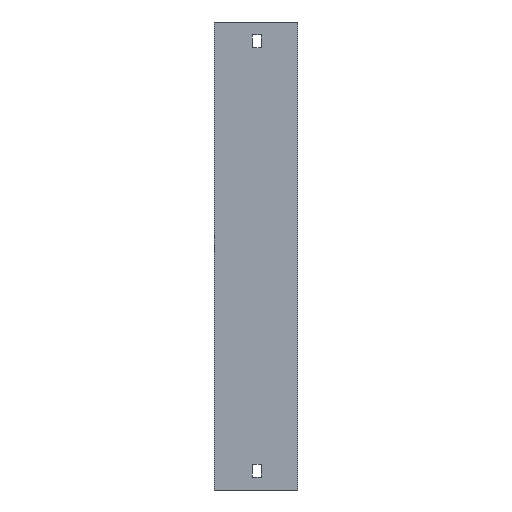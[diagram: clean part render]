
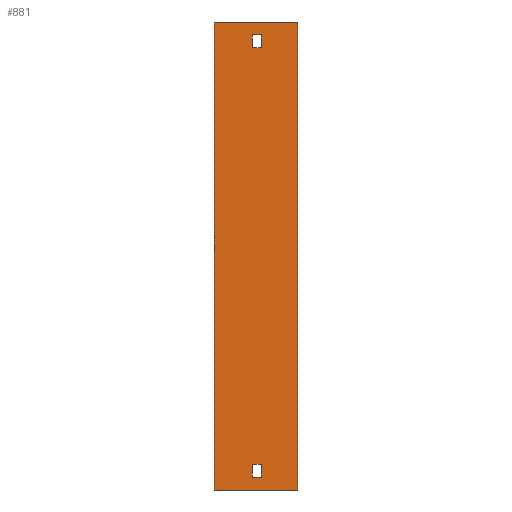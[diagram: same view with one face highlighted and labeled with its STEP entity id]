
A CAD part, left-side view. The second image highlights one B-rep face of the part: STEP entity #881.
In plain terms, the highlighted planar face has unit normal (-1, 0, 0).
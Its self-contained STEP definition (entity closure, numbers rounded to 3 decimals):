
#86 = VERTEX_POINT ( 'NONE', #176 ) ;
#96 = EDGE_CURVE ( 'NONE', #1593, #86, #312, .T. ) ;
#124 = VERTEX_POINT ( 'NONE', #1488 ) ;
#130 = AXIS2_PLACEMENT_3D ( 'NONE', #807, #965, #245 ) ;
#133 = DIRECTION ( 'NONE',  ( 0., 1., 0. ) ) ;
#144 = DIRECTION ( 'NONE',  ( 0., 0., 1. ) ) ;
#145 = DIRECTION ( 'NONE',  ( 0., -1., 0. ) ) ;
#176 = CARTESIAN_POINT ( 'NONE',  ( -165.5, 28.5, -305.5 ) ) ;
#208 = DIRECTION ( 'NONE',  ( 0., 0., -1. ) ) ;
#209 = DIRECTION ( 'NONE',  ( 0., 0., 1. ) ) ;
#218 = CARTESIAN_POINT ( 'NONE',  ( -165.5, 65.5, 50. ) ) ;
#234 = EDGE_CURVE ( 'NONE', #1704, #971, #252, .T. ) ;
#245 = DIRECTION ( 'NONE',  ( 0., 0., -1. ) ) ;
#252 = LINE ( 'NONE', #1446, #1312 ) ;
#280 = CARTESIAN_POINT ( 'NONE',  ( -165.5, 28.5, 40. ) ) ;
#285 = CARTESIAN_POINT ( 'NONE',  ( -165.5, 65.5, -315.5 ) ) ;
#302 = EDGE_CURVE ( 'NONE', #86, #440, #1347, .T. ) ;
#312 = LINE ( 'NONE', #1675, #1509 ) ;
#324 = DIRECTION ( 'NONE',  ( 0., -1., 0. ) ) ;
#337 = VECTOR ( 'NONE', #1057, 1000. ) ;
#359 = ORIENTED_EDGE ( 'NONE', *, *, #639, .T. ) ;
#398 = VECTOR ( 'NONE', #324, 1000. ) ;
#418 = CARTESIAN_POINT ( 'NONE',  ( -165.5, 0., 50. ) ) ;
#427 = EDGE_CURVE ( 'NONE', #1554, #1704, #692, .T. ) ;
#440 = VERTEX_POINT ( 'NONE', #1155 ) ;
#445 = ORIENTED_EDGE ( 'NONE', *, *, #96, .F. ) ;
#457 = CARTESIAN_POINT ( 'NONE',  ( -165.5, 65.5, -315.5 ) ) ;
#484 = VERTEX_POINT ( 'NONE', #418 ) ;
#501 = DIRECTION ( 'NONE',  ( 0., 0., 1. ) ) ;
#511 = DIRECTION ( 'NONE',  ( 0., -1., 0. ) ) ;
#541 = VERTEX_POINT ( 'NONE', #218 ) ;
#550 = DIRECTION ( 'NONE',  ( 0., 0., 1. ) ) ;
#553 = VERTEX_POINT ( 'NONE', #457 ) ;
#605 = CARTESIAN_POINT ( 'NONE',  ( -165.5, 35.5, -295.5 ) ) ;
#622 = EDGE_LOOP ( 'NONE', ( #1219, #837, #764, #359 ) ) ;
#639 = EDGE_CURVE ( 'NONE', #1810, #1554, #897, .T. ) ;
#642 = EDGE_CURVE ( 'NONE', #971, #1810, #1771, .T. ) ;
#659 = VECTOR ( 'NONE', #501, 1000. ) ;
#692 = LINE ( 'NONE', #1911, #1602 ) ;
#744 = CARTESIAN_POINT ( 'NONE',  ( -165.5, 35.5, 30. ) ) ;
#755 = VECTOR ( 'NONE', #133, 1000. ) ;
#762 = VECTOR ( 'NONE', #511, 1000. ) ;
#764 = ORIENTED_EDGE ( 'NONE', *, *, #642, .T. ) ;
#807 = CARTESIAN_POINT ( 'NONE',  ( -165.5, 65.5, -315.5 ) ) ;
#811 = CARTESIAN_POINT ( 'NONE',  ( -165.5, 65.5, 50. ) ) ;
#837 = ORIENTED_EDGE ( 'NONE', *, *, #234, .T. ) ;
#852 = VECTOR ( 'NONE', #144, 1000. ) ;
#881 = ADVANCED_FACE ( 'NONE', ( #1280, #1879, #1400 ), #1115, .F. ) ;
#897 = LINE ( 'NONE', #744, #755 ) ;
#946 = VECTOR ( 'NONE', #1946, 1000. ) ;
#956 = LINE ( 'NONE', #1553, #1608 ) ;
#961 = CARTESIAN_POINT ( 'NONE',  ( -165.5, 28.5, 30. ) ) ;
#963 = EDGE_CURVE ( 'NONE', #1084, #1593, #956, .T. ) ;
#965 = DIRECTION ( 'NONE',  ( 1., 0., 0. ) ) ;
#971 = VERTEX_POINT ( 'NONE', #280 ) ;
#1046 = ORIENTED_EDGE ( 'NONE', *, *, #1834, .F. ) ;
#1057 = DIRECTION ( 'NONE',  ( 0., 1., 0. ) ) ;
#1084 = VERTEX_POINT ( 'NONE', #1720 ) ;
#1099 = ORIENTED_EDGE ( 'NONE', *, *, #1649, .F. ) ;
#1107 = CARTESIAN_POINT ( 'NONE',  ( -165.5, 35.5, -305.5 ) ) ;
#1115 = PLANE ( 'NONE',  #130 ) ;
#1155 = CARTESIAN_POINT ( 'NONE',  ( -165.5, 28.5, -295.5 ) ) ;
#1160 = DIRECTION ( 'NONE',  ( 0., -1., 0. ) ) ;
#1193 = EDGE_CURVE ( 'NONE', #124, #484, #1804, .T. ) ;
#1202 = LINE ( 'NONE', #605, #337 ) ;
#1210 = CARTESIAN_POINT ( 'NONE',  ( -165.5, 28.5, 40. ) ) ;
#1214 = LINE ( 'NONE', #1668, #398 ) ;
#1219 = ORIENTED_EDGE ( 'NONE', *, *, #427, .T. ) ;
#1261 = LINE ( 'NONE', #811, #762 ) ;
#1280 = FACE_OUTER_BOUND ( 'NONE', #1399, .T. ) ;
#1312 = VECTOR ( 'NONE', #1160, 1000. ) ;
#1343 = CARTESIAN_POINT ( 'NONE',  ( -165.5, 35.5, 30. ) ) ;
#1347 = LINE ( 'NONE', #1642, #1833 ) ;
#1348 = CARTESIAN_POINT ( 'NONE',  ( -165.5, 35.5, 40. ) ) ;
#1352 = ORIENTED_EDGE ( 'NONE', *, *, #963, .F. ) ;
#1396 = ORIENTED_EDGE ( 'NONE', *, *, #1865, .F. ) ;
#1399 = EDGE_LOOP ( 'NONE', ( #1770, #1046, #1396, #1924 ) ) ;
#1400 = FACE_BOUND ( 'NONE', #1495, .T. ) ;
#1429 = LINE ( 'NONE', #285, #852 ) ;
#1446 = CARTESIAN_POINT ( 'NONE',  ( -165.5, 35.5, 40. ) ) ;
#1488 = CARTESIAN_POINT ( 'NONE',  ( -165.5, 0., -315.5 ) ) ;
#1495 = EDGE_LOOP ( 'NONE', ( #445, #1352, #1099, #1600 ) ) ;
#1509 = VECTOR ( 'NONE', #145, 1000. ) ;
#1553 = CARTESIAN_POINT ( 'NONE',  ( -165.5, 35.5, -305.5 ) ) ;
#1554 = VERTEX_POINT ( 'NONE', #1343 ) ;
#1593 = VERTEX_POINT ( 'NONE', #1107 ) ;
#1600 = ORIENTED_EDGE ( 'NONE', *, *, #302, .F. ) ;
#1602 = VECTOR ( 'NONE', #550, 1000. ) ;
#1608 = VECTOR ( 'NONE', #208, 1000. ) ;
#1616 = CARTESIAN_POINT ( 'NONE',  ( -165.5, 0., -315.5 ) ) ;
#1642 = CARTESIAN_POINT ( 'NONE',  ( -165.5, 28.5, -305.5 ) ) ;
#1649 = EDGE_CURVE ( 'NONE', #440, #1084, #1202, .T. ) ;
#1668 = CARTESIAN_POINT ( 'NONE',  ( -165.5, 65.5, -315.5 ) ) ;
#1675 = CARTESIAN_POINT ( 'NONE',  ( -165.5, 35.5, -305.5 ) ) ;
#1704 = VERTEX_POINT ( 'NONE', #1348 ) ;
#1720 = CARTESIAN_POINT ( 'NONE',  ( -165.5, 35.5, -295.5 ) ) ;
#1728 = EDGE_CURVE ( 'NONE', #553, #124, #1214, .T. ) ;
#1770 = ORIENTED_EDGE ( 'NONE', *, *, #1193, .T. ) ;
#1771 = LINE ( 'NONE', #1210, #946 ) ;
#1804 = LINE ( 'NONE', #1616, #659 ) ;
#1810 = VERTEX_POINT ( 'NONE', #961 ) ;
#1833 = VECTOR ( 'NONE', #209, 1000. ) ;
#1834 = EDGE_CURVE ( 'NONE', #541, #484, #1261, .T. ) ;
#1865 = EDGE_CURVE ( 'NONE', #553, #541, #1429, .T. ) ;
#1879 = FACE_BOUND ( 'NONE', #622, .T. ) ;
#1911 = CARTESIAN_POINT ( 'NONE',  ( -165.5, 35.5, 40. ) ) ;
#1924 = ORIENTED_EDGE ( 'NONE', *, *, #1728, .T. ) ;
#1946 = DIRECTION ( 'NONE',  ( 0., 0., -1. ) ) ;
